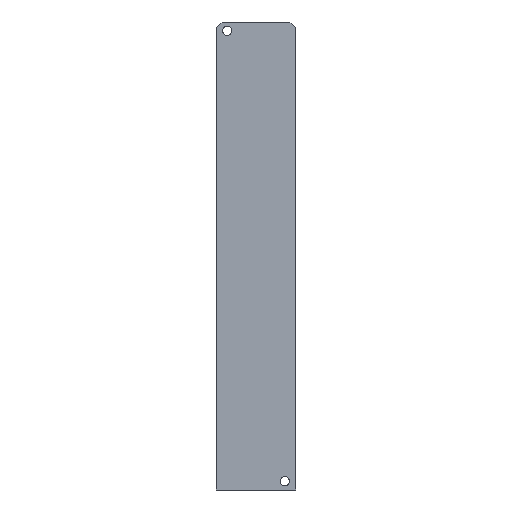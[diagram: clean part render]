
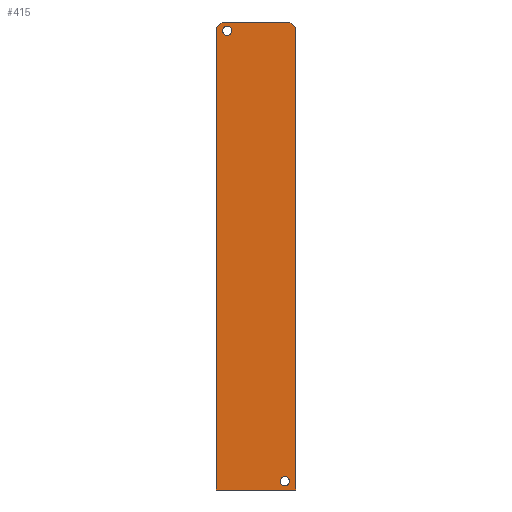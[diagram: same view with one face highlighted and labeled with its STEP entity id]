
A CAD part, front view. The second image highlights one B-rep face of the part: STEP entity #415.
In plain terms, the highlighted planar face has unit normal (0, -1, 0).
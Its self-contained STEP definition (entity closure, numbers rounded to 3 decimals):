
#10 = VECTOR ( 'NONE', #133, 1000. ) ;
#18 = CARTESIAN_POINT ( 'NONE',  ( 27.5, 0., -2. ) ) ;
#22 = AXIS2_PLACEMENT_3D ( 'NONE', #295, #222, #307 ) ;
#24 = CARTESIAN_POINT ( 'NONE',  ( 27.5, 0., -162. ) ) ;
#29 = DIRECTION ( 'NONE',  ( 1., 0., 0. ) ) ;
#55 = CARTESIAN_POINT ( 'NONE',  ( 0., 0., -2. ) ) ;
#57 = FACE_BOUND ( 'NONE', #472, .T. ) ;
#58 = CIRCLE ( 'NONE', #346, 1.6 ) ;
#60 = EDGE_CURVE ( 'NONE', #429, #201, #316, .T. ) ;
#66 = CARTESIAN_POINT ( 'NONE',  ( 0., 0., -162. ) ) ;
#73 = CARTESIAN_POINT ( 'NONE',  ( 27.5, 0., -162. ) ) ;
#74 = DIRECTION ( 'NONE',  ( 0., 1., 0. ) ) ;
#76 = ORIENTED_EDGE ( 'NONE', *, *, #370, .T. ) ;
#80 = CARTESIAN_POINT ( 'NONE',  ( 93.75, 0., -68.25 ) ) ;
#81 = EDGE_CURVE ( 'NONE', #228, #388, #406, .T. ) ;
#97 = CARTESIAN_POINT ( 'NONE',  ( 0., 0., -162. ) ) ;
#104 = FACE_OUTER_BOUND ( 'NONE', #263, .T. ) ;
#110 = LINE ( 'NONE', #219, #301 ) ;
#133 = DIRECTION ( 'NONE',  ( 1., 0., 0. ) ) ;
#138 = ORIENTED_EDGE ( 'NONE', *, *, #149, .F. ) ;
#140 = CARTESIAN_POINT ( 'NONE',  ( 25.5, 0., 0. ) ) ;
#149 = EDGE_CURVE ( 'NONE', #357, #402, #110, .T. ) ;
#152 = VERTEX_POINT ( 'NONE', #188 ) ;
#159 = CARTESIAN_POINT ( 'NONE',  ( -80., 0., -82. ) ) ;
#160 = AXIS2_PLACEMENT_3D ( 'NONE', #424, #196, #227 ) ;
#176 = DIRECTION ( 'NONE',  ( 0., 0., 1. ) ) ;
#181 = DIRECTION ( 'NONE',  ( 0., -1., 0. ) ) ;
#188 = CARTESIAN_POINT ( 'NONE',  ( 3.75, 0., -4.6 ) ) ;
#196 = DIRECTION ( 'NONE',  ( 0., 1., 0. ) ) ;
#197 = ORIENTED_EDGE ( 'NONE', *, *, #324, .T. ) ;
#198 = EDGE_CURVE ( 'NONE', #152, #274, #58, .T. ) ;
#201 = VERTEX_POINT ( 'NONE', #451 ) ;
#204 = VECTOR ( 'NONE', #264, 1000. ) ;
#216 = DIRECTION ( 'NONE',  ( 0., 0., -1. ) ) ;
#219 = CARTESIAN_POINT ( 'NONE',  ( 0., 0., 0. ) ) ;
#222 = DIRECTION ( 'NONE',  ( 0., 1., 0. ) ) ;
#223 = DIRECTION ( 'NONE',  ( 0., 0., 1. ) ) ;
#227 = DIRECTION ( 'NONE',  ( 0., 0., 1. ) ) ;
#228 = VERTEX_POINT ( 'NONE', #73 ) ;
#229 = LINE ( 'NONE', #159, #253 ) ;
#237 = ORIENTED_EDGE ( 'NONE', *, *, #273, .T. ) ;
#250 = EDGE_CURVE ( 'NONE', #357, #380, #229, .T. ) ;
#251 = PLANE ( 'NONE',  #445 ) ;
#253 = VECTOR ( 'NONE', #501, 1000. ) ;
#254 = FACE_BOUND ( 'NONE', #422, .T. ) ;
#257 = CARTESIAN_POINT ( 'NONE',  ( 0., 0., -162. ) ) ;
#263 = EDGE_LOOP ( 'NONE', ( #138, #355, #397, #76, #366, #197 ) ) ;
#264 = DIRECTION ( 'NONE',  ( 0., 0., 1. ) ) ;
#273 = EDGE_CURVE ( 'NONE', #274, #152, #311, .T. ) ;
#274 = VERTEX_POINT ( 'NONE', #390 ) ;
#288 = VERTEX_POINT ( 'NONE', #460 ) ;
#294 = LINE ( 'NONE', #97, #10 ) ;
#295 = CARTESIAN_POINT ( 'NONE',  ( 23.75, 0., -159. ) ) ;
#296 = AXIS2_PLACEMENT_3D ( 'NONE', #410, #74, #223 ) ;
#301 = VECTOR ( 'NONE', #29, 1000. ) ;
#302 = DIRECTION ( 'NONE',  ( 0., 0., 1. ) ) ;
#307 = DIRECTION ( 'NONE',  ( 0., 0., 1. ) ) ;
#311 = CIRCLE ( 'NONE', #160, 1.6 ) ;
#316 = CIRCLE ( 'NONE', #22, 1.6 ) ;
#324 = EDGE_CURVE ( 'NONE', #388, #402, #468, .T. ) ;
#332 = CIRCLE ( 'NONE', #296, 1.6 ) ;
#336 = CARTESIAN_POINT ( 'NONE',  ( 23.75, 0., -157.4 ) ) ;
#343 = VECTOR ( 'NONE', #464, 1000. ) ;
#346 = AXIS2_PLACEMENT_3D ( 'NONE', #482, #403, #302 ) ;
#355 = ORIENTED_EDGE ( 'NONE', *, *, #250, .T. ) ;
#357 = VERTEX_POINT ( 'NONE', #430 ) ;
#366 = ORIENTED_EDGE ( 'NONE', *, *, #81, .T. ) ;
#370 = EDGE_CURVE ( 'NONE', #288, #228, #294, .T. ) ;
#380 = VERTEX_POINT ( 'NONE', #55 ) ;
#385 = ORIENTED_EDGE ( 'NONE', *, *, #198, .T. ) ;
#388 = VERTEX_POINT ( 'NONE', #18 ) ;
#390 = CARTESIAN_POINT ( 'NONE',  ( 3.75, 0., -1.4 ) ) ;
#397 = ORIENTED_EDGE ( 'NONE', *, *, #473, .F. ) ;
#402 = VERTEX_POINT ( 'NONE', #140 ) ;
#403 = DIRECTION ( 'NONE',  ( 0., 1., 0. ) ) ;
#406 = LINE ( 'NONE', #24, #475 ) ;
#410 = CARTESIAN_POINT ( 'NONE',  ( 23.75, 0., -159. ) ) ;
#415 = ADVANCED_FACE ( 'NONE', ( #254, #57, #104 ), #251, .T. ) ;
#416 = LINE ( 'NONE', #257, #204 ) ;
#422 = EDGE_LOOP ( 'NONE', ( #237, #385 ) ) ;
#424 = CARTESIAN_POINT ( 'NONE',  ( 3.75, 0., -3. ) ) ;
#429 = VERTEX_POINT ( 'NONE', #336 ) ;
#430 = CARTESIAN_POINT ( 'NONE',  ( 2., 0., 0. ) ) ;
#445 = AXIS2_PLACEMENT_3D ( 'NONE', #66, #181, #216 ) ;
#451 = CARTESIAN_POINT ( 'NONE',  ( 23.75, 0., -160.6 ) ) ;
#460 = CARTESIAN_POINT ( 'NONE',  ( 0., 0., -162. ) ) ;
#464 = DIRECTION ( 'NONE',  ( -0.707, 0., 0.707 ) ) ;
#468 = LINE ( 'NONE', #80, #343 ) ;
#472 = EDGE_LOOP ( 'NONE', ( #496, #498 ) ) ;
#473 = EDGE_CURVE ( 'NONE', #288, #380, #416, .T. ) ;
#475 = VECTOR ( 'NONE', #176, 1000. ) ;
#482 = CARTESIAN_POINT ( 'NONE',  ( 3.75, 0., -3. ) ) ;
#483 = EDGE_CURVE ( 'NONE', #201, #429, #332, .T. ) ;
#496 = ORIENTED_EDGE ( 'NONE', *, *, #60, .T. ) ;
#498 = ORIENTED_EDGE ( 'NONE', *, *, #483, .T. ) ;
#501 = DIRECTION ( 'NONE',  ( -0.707, 0., -0.707 ) ) ;
